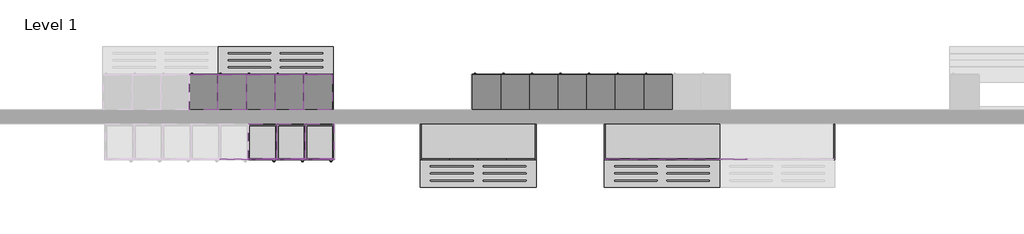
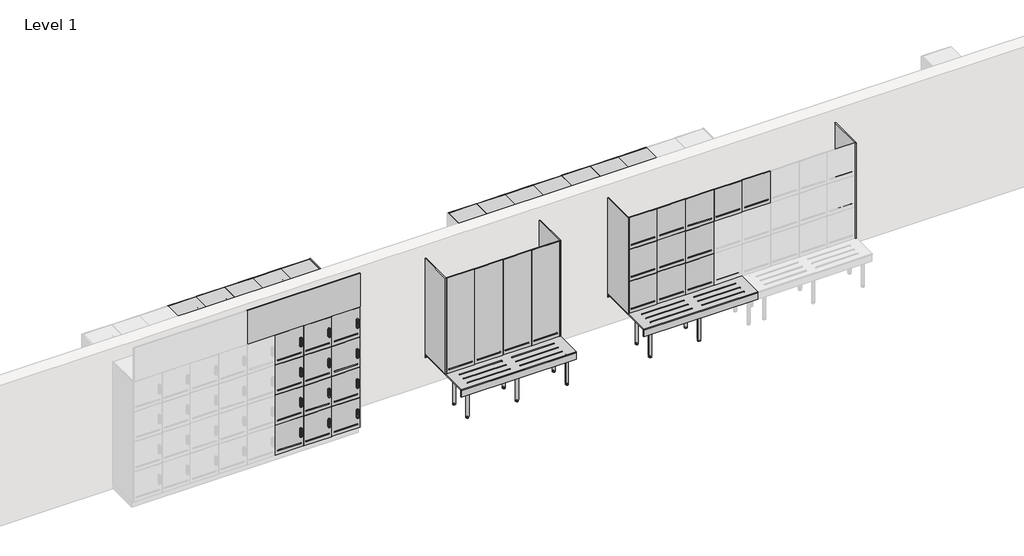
# One storey, part 2 of 3: 127 furniture elements.
"""IFC4 building model written with IfcOpenShell, lengths in millimetres."""

from ifc_helpers import new_model, si_unit, origin, place, context, project, spatial, transform, mapped, element, save
from components import furniture_7293fc8f, furniture_05545089, furniture_e4ac2a61, standard_2dcb62da, standard_f5ae554c, standard_45df0485, standard_ef5d929b, standard_f5e0fdab, standard_98e0e482, standard_e2bbb5fc, standard_e0f8491c, standard_74556009, standard_06cb4884, standard_31d623df, standard_40445af7, standard_a614ba5f, standard_bf09c246, standard_83458254, standard_7a0b6f89, standard_c490a989

model = new_model("IFC4")

# Units and contexts
model_context = context("Model", 3, world=origin())
ifc_project = project(units=[si_unit("LENGTHUNIT", "METRE", prefix="MILLI")], contexts=[model_context])

# Site, building, storey
site = spatial("IfcSite", under=ifc_project)
building = spatial("IfcBuilding", under=site)
storey = spatial("IfcBuildingStorey", under=building, Name="Level 1", Elevation=0.0)

# Furniture
placement = place(None, origin())
furniture_shape = furniture_7293fc8f(model_context)
element("IfcFurniture", 1, ObjectType="Lockers-Bay-Duracube-Duraloc : LBM-1900h x 500d x 400w with 470h Bench", at=placement, inside=storey, context=model_context, shape_type="MappedRepresentation", body=[
    mapped(furniture_shape, transform((-3635.1575415, 2567.7422336, 0.0), x_axis=(1.0, 0.0, 0.0), y_axis=(0.0, 1.0, 0.0), z_axis=(0.0, 0.0, 1.0))),
])
furniture_2_shape = furniture_05545089(model_context)
element("IfcFurniture", 2, ObjectType="Lockers-Bay-Duracube-Duraloc : LBM-1900h x 500d x 400w with 470h Bench", at=placement, inside=storey, context=model_context, shape_type="MappedRepresentation", body=[
    mapped(furniture_2_shape, transform((-1055.1575415, 2567.7422336, 0.0), x_axis=(1.0, 0.0, 0.0), y_axis=(0.0, 1.0, 0.0), z_axis=(0.0, 0.0, 1.0))),
])
furniture_3_shape = furniture_e4ac2a61(model_context)
element("IfcFurniture", 3, ObjectType="Lockers-Bay-Duracube-Duraloc : LWM-1900h x 500d x 400w @ 470h Wall", at=placement, inside=storey, context=model_context, shape_type="MappedRepresentation", body=[
    mapped(furniture_3_shape, transform((-4855.1575415, 3267.7422336, 0.0), x_axis=(-1.0, 0.0, 0.0), y_axis=(0.0, -1.0, 0.0), z_axis=(0.0, 0.0, 1.0))),
])
standard_shape = standard_2dcb62da(model_context)
element("IfcFurniture", 4, ObjectType="X_Bench-Foot-Duracube-Wall Assembly : Standard", at=placement, inside=storey, context=model_context, shape_type="MappedRepresentation", body=[
    mapped(standard_shape, transform((-3566.357868, 2317.7422336, 0.0), x_axis=(1.0, 0.0, 0.0), y_axis=(0.0, 1.0, 0.0), z_axis=(0.0, 0.0, 1.0))),
])
element("IfcFurniture", 5, ObjectType="X_Bench-Foot-Duracube-Wall Assembly : Standard", at=placement, inside=storey, context=model_context, shape_type="MappedRepresentation", body=[
    mapped(standard_shape, transform((-2866.857868, 2317.7422336, 0.0), x_axis=(1.0, 0.0, 0.0), y_axis=(0.0, 1.0, 0.0), z_axis=(0.0, 0.0, 1.0))),
])
element("IfcFurniture", 6, ObjectType="X_Bench-Foot-Duracube-Wall Assembly : Standard", at=placement, inside=storey, context=model_context, shape_type="MappedRepresentation", body=[
    mapped(standard_shape, transform((-986.357868, 2317.7422336, 0.0), x_axis=(1.0, 0.0, 0.0), y_axis=(0.0, 1.0, 0.0), z_axis=(0.0, 0.0, 1.0))),
])
element("IfcFurniture", 7, ObjectType="X_Bench-Foot-Duracube-Wall Assembly : Standard", at=placement, inside=storey, context=model_context, shape_type="MappedRepresentation", body=[
    mapped(standard_shape, transform((-293.357868, 2317.7422336, 0.0), x_axis=(1.0, 0.0, 0.0), y_axis=(0.0, 1.0, 0.0), z_axis=(0.0, 0.0, 1.0))),
])
element("IfcFurniture", 8, ObjectType="X_Bench-Foot-Duracube-Wall Assembly : Standard", at=placement, inside=storey, context=model_context, shape_type="MappedRepresentation", body=[
    mapped(standard_shape, transform((-4923.9572151, 3517.7422336, 0.0), x_axis=(-1.0, 0.0, 0.0), y_axis=(0.0, -1.0, 0.0), z_axis=(0.0, 0.0, 1.0))),
])
element("IfcFurniture", 9, ObjectType="X_Bench-Foot-Duracube-Wall Assembly : Standard", at=placement, inside=storey, context=model_context, shape_type="MappedRepresentation", body=[
    mapped(standard_shape, transform((-5616.9572151, 3517.7422336, 0.0), x_axis=(-1.0, 0.0, 0.0), y_axis=(0.0, -1.0, 0.0), z_axis=(0.0, 0.0, 1.0))),
])
element("IfcFurniture", 10, ObjectType="X_Bench-Foot-Duracube-Wall Assembly : Standard", at=placement, inside=storey, context=model_context, shape_type="MappedRepresentation", body=[
    mapped(standard_shape, transform((-6536.9572151, 3517.7422336, 0.0), x_axis=(-1.0, 0.0, 0.0), y_axis=(0.0, -1.0, 0.0), z_axis=(0.0, 0.0, 1.0))),
])
standard_2_shape = standard_f5ae554c(model_context)
element("IfcFurniture", 11, ObjectType="X_Bench-Foot-Duracube-Wall Assembly : Standard", at=placement, inside=storey, context=model_context, shape_type="MappedRepresentation", body=[
    mapped(standard_2_shape, transform((-2077.9572151, 2317.7422336, 0.0), x_axis=(-1.0, 0.0, 0.0), y_axis=(0.0, -1.0, 0.0), z_axis=(0.0, 0.0, 1.0))),
])
element("IfcFurniture", 12, ObjectType="X_Bench-Foot-Duracube-Wall Assembly : Standard", at=placement, inside=storey, context=model_context, shape_type="MappedRepresentation", body=[
    mapped(standard_2_shape, transform((-6399.357868, 3517.7422336, 0.0), x_axis=(1.0, 0.0, 0.0), y_axis=(0.0, 1.0, 0.0), z_axis=(0.0, 0.0, 1.0))),
])
standard_3_shape = standard_45df0485(model_context)
element("IfcFurniture", 13, ObjectType="X_Vanity-Angle-Duracube-Bench Support : Standard", at=placement, inside=storey, context=model_context, shape_type="MappedRepresentation", body=[
    mapped(standard_3_shape, transform((-293.357868, 2817.7422336, 417.0), x_axis=(1.0, 0.0, 0.0), y_axis=(0.0, 1.0, 0.0), z_axis=(0.0, 0.0, 1.0))),
])
element("IfcFurniture", 14, ObjectType="X_Vanity-Angle-Duracube-Bench Support : Standard", at=placement, inside=storey, context=model_context, shape_type="MappedRepresentation", body=[
    mapped(standard_3_shape, transform((-5616.9572151, 3017.7422336, 417.0), x_axis=(-1.0, 0.0, 0.0), y_axis=(0.0, -1.0, 0.0), z_axis=(0.0, 0.0, 1.0))),
])
standard_4_shape = standard_ef5d929b(model_context)
element("IfcFurniture", 15, ObjectType="X_Vanity-Angle-Duracube-Bench Support : Standard", at=placement, inside=storey, context=model_context, shape_type="MappedRepresentation", body=[
    mapped(standard_4_shape, transform((-2866.857868, 2817.7422336, 417.0), x_axis=(1.0, 0.0, 0.0), y_axis=(0.0, 1.0, 0.0), z_axis=(0.0, 0.0, 1.0))),
])
standard_5_shape = standard_f5e0fdab(model_context)
element("IfcFurniture", 16, ObjectType="X_Bench-Wall-Duracube-Locker : Standard", at=placement, inside=storey, context=model_context, shape_type="MappedRepresentation", body=[
    mapped(standard_5_shape, transform((-2866.857868, 2725.2422336, 0.0), x_axis=(1.0, 0.0, 0.0), y_axis=(0.0, 1.0, 0.0), z_axis=(0.0, 0.0, 1.0))),
])
standard_6_shape = standard_98e0e482(model_context)
element("IfcFurniture", 17, ObjectType="X_Bench-Wall-Duracube-Locker : Standard", at=placement, inside=storey, context=model_context, shape_type="MappedRepresentation", body=[
    mapped(standard_6_shape, transform((-293.357868, 2725.2422336, 0.0), x_axis=(1.0, 0.0, 0.0), y_axis=(0.0, 1.0, 0.0), z_axis=(0.0, 0.0, 1.0))),
])
element("IfcFurniture", 18, ObjectType="X_Bench-Wall-Duracube-Locker : Standard", at=placement, inside=storey, context=model_context, shape_type="MappedRepresentation", body=[
    mapped(standard_6_shape, transform((-5616.9572151, 3110.2422336, 0.0), x_axis=(-1.0, 0.0, 0.0), y_axis=(0.0, -1.0, 0.0), z_axis=(0.0, 0.0, 1.0))),
])
standard_7_shape = standard_e2bbb5fc(model_context)
element("IfcFurniture", 19, ObjectType="X_Locker-Duracube-Bay : Standard", at=placement, inside=storey, context=model_context, shape_type="MappedRepresentation", body=[
    mapped(standard_7_shape, transform((-5086.857868, 2817.7422336, 1450.0), x_axis=(1.0, 0.0, 0.0), y_axis=(0.0, 1.0, 0.0), z_axis=(0.0, 0.0, 1.0))),
])
element("IfcFurniture", 20, ObjectType="X_Locker-Duracube-Bay : Standard", at=placement, inside=storey, context=model_context, shape_type="MappedRepresentation", body=[
    mapped(standard_7_shape, transform((-5486.857868, 2817.7422336, 1450.0), x_axis=(1.0, 0.0, 0.0), y_axis=(0.0, 1.0, 0.0), z_axis=(0.0, 0.0, 1.0))),
])
element("IfcFurniture", 21, ObjectType="X_Locker-Duracube-Bay : Standard", at=placement, inside=storey, context=model_context, shape_type="MappedRepresentation", body=[
    mapped(standard_7_shape, transform((-5886.857868, 2817.7422336, 1450.0), x_axis=(1.0, 0.0, 0.0), y_axis=(0.0, 1.0, 0.0), z_axis=(0.0, 0.0, 1.0))),
])
standard_8_shape = standard_e0f8491c(model_context)
element("IfcFurniture", 22, ObjectType="X_Locker-Duracube-Door : Standard", at=placement, inside=storey, context=model_context, shape_type="MappedRepresentation", body=[
    mapped(standard_8_shape, transform((-5086.857868, 2330.7422336, 1450.0), x_axis=(1.0, 0.0, 0.0), y_axis=(0.0, 1.0, 0.0), z_axis=(0.0, 0.0, 1.0))),
])
element("IfcFurniture", 23, ObjectType="X_Locker-Duracube-Door : Standard", at=placement, inside=storey, context=model_context, shape_type="MappedRepresentation", body=[
    mapped(standard_8_shape, transform((-5486.857868, 2330.7422336, 1450.0), x_axis=(1.0, 0.0, 0.0), y_axis=(0.0, 1.0, 0.0), z_axis=(0.0, 0.0, 1.0))),
])
element("IfcFurniture", 24, ObjectType="X_Locker-Duracube-Door : Standard", at=placement, inside=storey, context=model_context, shape_type="MappedRepresentation", body=[
    mapped(standard_8_shape, transform((-5886.857868, 2330.7422336, 1450.0), x_axis=(1.0, 0.0, 0.0), y_axis=(0.0, 1.0, 0.0), z_axis=(0.0, 0.0, 1.0))),
])
element("IfcFurniture", 25, ObjectType="X_Locker-Duracube-Bay : Standard", at=placement, inside=storey, context=model_context, shape_type="MappedRepresentation", body=[
    mapped(standard_7_shape, transform((-5086.857868, 2817.7422336, 1000.0), x_axis=(1.0, 0.0, 0.0), y_axis=(0.0, 1.0, 0.0), z_axis=(0.0, 0.0, 1.0))),
])
element("IfcFurniture", 26, ObjectType="X_Locker-Duracube-Bay : Standard", at=placement, inside=storey, context=model_context, shape_type="MappedRepresentation", body=[
    mapped(standard_7_shape, transform((-5486.857868, 2817.7422336, 1000.0), x_axis=(1.0, 0.0, 0.0), y_axis=(0.0, 1.0, 0.0), z_axis=(0.0, 0.0, 1.0))),
])
element("IfcFurniture", 27, ObjectType="X_Locker-Duracube-Bay : Standard", at=placement, inside=storey, context=model_context, shape_type="MappedRepresentation", body=[
    mapped(standard_7_shape, transform((-5886.857868, 2817.7422336, 1000.0), x_axis=(1.0, 0.0, 0.0), y_axis=(0.0, 1.0, 0.0), z_axis=(0.0, 0.0, 1.0))),
])
element("IfcFurniture", 28, ObjectType="X_Locker-Duracube-Bay : Standard", at=placement, inside=storey, context=model_context, shape_type="MappedRepresentation", body=[
    mapped(standard_7_shape, transform((-5086.857868, 2817.7422336, 100.0), x_axis=(1.0, 0.0, 0.0), y_axis=(0.0, 1.0, 0.0), z_axis=(0.0, 0.0, 1.0))),
])
element("IfcFurniture", 29, ObjectType="X_Locker-Duracube-Bay : Standard", at=placement, inside=storey, context=model_context, shape_type="MappedRepresentation", body=[
    mapped(standard_7_shape, transform((-5486.857868, 2817.7422336, 100.0), x_axis=(1.0, 0.0, 0.0), y_axis=(0.0, 1.0, 0.0), z_axis=(0.0, 0.0, 1.0))),
])
element("IfcFurniture", 30, ObjectType="X_Locker-Duracube-Bay : Standard", at=placement, inside=storey, context=model_context, shape_type="MappedRepresentation", body=[
    mapped(standard_7_shape, transform((-5886.857868, 2817.7422336, 100.0), x_axis=(1.0, 0.0, 0.0), y_axis=(0.0, 1.0, 0.0), z_axis=(0.0, 0.0, 1.0))),
])
element("IfcFurniture", 31, ObjectType="X_Locker-Duracube-Door : Standard", at=placement, inside=storey, context=model_context, shape_type="MappedRepresentation", body=[
    mapped(standard_8_shape, transform((-5086.857868, 2330.7422336, 1000.0), x_axis=(1.0, 0.0, 0.0), y_axis=(0.0, 1.0, 0.0), z_axis=(0.0, 0.0, 1.0))),
])
element("IfcFurniture", 32, ObjectType="X_Locker-Duracube-Door : Standard", at=placement, inside=storey, context=model_context, shape_type="MappedRepresentation", body=[
    mapped(standard_8_shape, transform((-5486.857868, 2330.7422336, 1000.0), x_axis=(1.0, 0.0, 0.0), y_axis=(0.0, 1.0, 0.0), z_axis=(0.0, 0.0, 1.0))),
])
element("IfcFurniture", 33, ObjectType="X_Locker-Duracube-Door : Standard", at=placement, inside=storey, context=model_context, shape_type="MappedRepresentation", body=[
    mapped(standard_8_shape, transform((-5886.857868, 2330.7422336, 1000.0), x_axis=(1.0, 0.0, 0.0), y_axis=(0.0, 1.0, 0.0), z_axis=(0.0, 0.0, 1.0))),
])
element("IfcFurniture", 34, ObjectType="X_Locker-Duracube-Door : Standard", at=placement, inside=storey, context=model_context, shape_type="MappedRepresentation", body=[
    mapped(standard_8_shape, transform((-5086.857868, 2330.7422336, 100.0), x_axis=(1.0, 0.0, 0.0), y_axis=(0.0, 1.0, 0.0), z_axis=(0.0, 0.0, 1.0))),
])
element("IfcFurniture", 35, ObjectType="X_Locker-Duracube-Door : Standard", at=placement, inside=storey, context=model_context, shape_type="MappedRepresentation", body=[
    mapped(standard_8_shape, transform((-5486.857868, 2330.7422336, 100.0), x_axis=(1.0, 0.0, 0.0), y_axis=(0.0, 1.0, 0.0), z_axis=(0.0, 0.0, 1.0))),
])
element("IfcFurniture", 36, ObjectType="X_Locker-Duracube-Door : Standard", at=placement, inside=storey, context=model_context, shape_type="MappedRepresentation", body=[
    mapped(standard_8_shape, transform((-5886.857868, 2330.7422336, 100.0), x_axis=(1.0, 0.0, 0.0), y_axis=(0.0, 1.0, 0.0), z_axis=(0.0, 0.0, 1.0))),
])
element("IfcFurniture", 37, ObjectType="X_Locker-Duracube-Bay : Standard", at=placement, inside=storey, context=model_context, shape_type="MappedRepresentation", body=[
    mapped(standard_7_shape, transform((-5086.857868, 2817.7422336, 550.0), x_axis=(1.0, 0.0, 0.0), y_axis=(0.0, 1.0, 0.0), z_axis=(0.0, 0.0, 1.0))),
])
element("IfcFurniture", 38, ObjectType="X_Locker-Duracube-Bay : Standard", at=placement, inside=storey, context=model_context, shape_type="MappedRepresentation", body=[
    mapped(standard_7_shape, transform((-5486.857868, 2817.7422336, 550.0), x_axis=(1.0, 0.0, 0.0), y_axis=(0.0, 1.0, 0.0), z_axis=(0.0, 0.0, 1.0))),
])
element("IfcFurniture", 39, ObjectType="X_Locker-Duracube-Bay : Standard", at=placement, inside=storey, context=model_context, shape_type="MappedRepresentation", body=[
    mapped(standard_7_shape, transform((-5886.857868, 2817.7422336, 550.0), x_axis=(1.0, 0.0, 0.0), y_axis=(0.0, 1.0, 0.0), z_axis=(0.0, 0.0, 1.0))),
])
element("IfcFurniture", 40, ObjectType="X_Locker-Duracube-Door : Standard", at=placement, inside=storey, context=model_context, shape_type="MappedRepresentation", body=[
    mapped(standard_8_shape, transform((-5086.857868, 2330.7422336, 550.0), x_axis=(1.0, 0.0, 0.0), y_axis=(0.0, 1.0, 0.0), z_axis=(0.0, 0.0, 1.0))),
])
element("IfcFurniture", 41, ObjectType="X_Locker-Duracube-Door : Standard", at=placement, inside=storey, context=model_context, shape_type="MappedRepresentation", body=[
    mapped(standard_8_shape, transform((-5486.857868, 2330.7422336, 550.0), x_axis=(1.0, 0.0, 0.0), y_axis=(0.0, 1.0, 0.0), z_axis=(0.0, 0.0, 1.0))),
])
element("IfcFurniture", 42, ObjectType="X_Locker-Duracube-Door : Standard", at=placement, inside=storey, context=model_context, shape_type="MappedRepresentation", body=[
    mapped(standard_8_shape, transform((-5886.857868, 2330.7422336, 550.0), x_axis=(1.0, 0.0, 0.0), y_axis=(0.0, 1.0, 0.0), z_axis=(0.0, 0.0, 1.0))),
])
standard_9_shape = standard_74556009(model_context)
element("IfcFurniture", 43, ObjectType="X_Locker-Duracube-Door : Standard", at=placement, inside=storey, context=model_context, shape_type="MappedRepresentation", body=[
    mapped(standard_9_shape, transform((-2266.857868, 2330.7422336, 470.0), x_axis=(1.0, 0.0, 0.0), y_axis=(0.0, 1.0, 0.0), z_axis=(0.0, 0.0, 1.0))),
])
element("IfcFurniture", 44, ObjectType="X_Locker-Duracube-Door : Standard", at=placement, inside=storey, context=model_context, shape_type="MappedRepresentation", body=[
    mapped(standard_9_shape, transform((-2666.857868, 2330.7422336, 470.0), x_axis=(1.0, 0.0, 0.0), y_axis=(0.0, 1.0, 0.0), z_axis=(0.0, 0.0, 1.0))),
])
element("IfcFurniture", 45, ObjectType="X_Locker-Duracube-Door : Standard", at=placement, inside=storey, context=model_context, shape_type="MappedRepresentation", body=[
    mapped(standard_9_shape, transform((-3066.857868, 2330.7422336, 470.0), x_axis=(1.0, 0.0, 0.0), y_axis=(0.0, 1.0, 0.0), z_axis=(0.0, 0.0, 1.0))),
])
element("IfcFurniture", 46, ObjectType="X_Locker-Duracube-Door : Standard", at=placement, inside=storey, context=model_context, shape_type="MappedRepresentation", body=[
    mapped(standard_9_shape, transform((-3466.857868, 2330.7422336, 470.0), x_axis=(1.0, 0.0, 0.0), y_axis=(0.0, 1.0, 0.0), z_axis=(0.0, 0.0, 1.0))),
])
standard_10_shape = standard_06cb4884(model_context)
element("IfcFurniture", 47, ObjectType="X_Locker-Duracube-Door : Standard", at=placement, inside=storey, context=model_context, shape_type="MappedRepresentation", body=[
    mapped(standard_10_shape, transform((713.142132, 2330.7422336, 1423.3333333), x_axis=(1.0, 0.0, 0.0), y_axis=(0.0, 1.0, 0.0), z_axis=(0.0, 0.0, 1.0))),
])
element("IfcFurniture", 48, ObjectType="X_Locker-Duracube-Door : Standard", at=placement, inside=storey, context=model_context, shape_type="MappedRepresentation", body=[
    mapped(standard_10_shape, transform((313.142132, 2330.7422336, 1423.3333333), x_axis=(1.0, 0.0, 0.0), y_axis=(0.0, 1.0, 0.0), z_axis=(0.0, 0.0, 1.0))),
])
element("IfcFurniture", 49, ObjectType="X_Locker-Duracube-Door : Standard", at=placement, inside=storey, context=model_context, shape_type="MappedRepresentation", body=[
    mapped(standard_10_shape, transform((-86.857868, 2330.7422336, 1423.3333333), x_axis=(1.0, 0.0, 0.0), y_axis=(0.0, 1.0, 0.0), z_axis=(0.0, 0.0, 1.0))),
])
element("IfcFurniture", 50, ObjectType="X_Locker-Duracube-Door : Standard", at=placement, inside=storey, context=model_context, shape_type="MappedRepresentation", body=[
    mapped(standard_10_shape, transform((-86.857868, 2330.7422336, 946.6666667), x_axis=(1.0, 0.0, 0.0), y_axis=(0.0, 1.0, 0.0), z_axis=(0.0, 0.0, 1.0))),
])
element("IfcFurniture", 51, ObjectType="X_Locker-Duracube-Door : Standard", at=placement, inside=storey, context=model_context, shape_type="MappedRepresentation", body=[
    mapped(standard_10_shape, transform((-86.857868, 2330.7422336, 470.0), x_axis=(1.0, 0.0, 0.0), y_axis=(0.0, 1.0, 0.0), z_axis=(0.0, 0.0, 1.0))),
])
element("IfcFurniture", 52, ObjectType="X_Locker-Duracube-Door : Standard", at=placement, inside=storey, context=model_context, shape_type="MappedRepresentation", body=[
    mapped(standard_10_shape, transform((-486.857868, 2330.7422336, 1423.3333333), x_axis=(1.0, 0.0, 0.0), y_axis=(0.0, 1.0, 0.0), z_axis=(0.0, 0.0, 1.0))),
])
element("IfcFurniture", 53, ObjectType="X_Locker-Duracube-Door : Standard", at=placement, inside=storey, context=model_context, shape_type="MappedRepresentation", body=[
    mapped(standard_10_shape, transform((-486.857868, 2330.7422336, 946.6666667), x_axis=(1.0, 0.0, 0.0), y_axis=(0.0, 1.0, 0.0), z_axis=(0.0, 0.0, 1.0))),
])
element("IfcFurniture", 54, ObjectType="X_Locker-Duracube-Door : Standard", at=placement, inside=storey, context=model_context, shape_type="MappedRepresentation", body=[
    mapped(standard_10_shape, transform((-486.857868, 2330.7422336, 470.0), x_axis=(1.0, 0.0, 0.0), y_axis=(0.0, 1.0, 0.0), z_axis=(0.0, 0.0, 1.0))),
])
element("IfcFurniture", 55, ObjectType="X_Locker-Duracube-Door : Standard", at=placement, inside=storey, context=model_context, shape_type="MappedRepresentation", body=[
    mapped(standard_10_shape, transform((-886.857868, 2330.7422336, 1423.3333333), x_axis=(1.0, 0.0, 0.0), y_axis=(0.0, 1.0, 0.0), z_axis=(0.0, 0.0, 1.0))),
])
element("IfcFurniture", 56, ObjectType="X_Locker-Duracube-Door : Standard", at=placement, inside=storey, context=model_context, shape_type="MappedRepresentation", body=[
    mapped(standard_10_shape, transform((-886.857868, 2330.7422336, 946.6666667), x_axis=(1.0, 0.0, 0.0), y_axis=(0.0, 1.0, 0.0), z_axis=(0.0, 0.0, 1.0))),
])
element("IfcFurniture", 57, ObjectType="X_Locker-Duracube-Door : Standard", at=placement, inside=storey, context=model_context, shape_type="MappedRepresentation", body=[
    mapped(standard_10_shape, transform((-886.857868, 2330.7422336, 470.0), x_axis=(1.0, 0.0, 0.0), y_axis=(0.0, 1.0, 0.0), z_axis=(0.0, 0.0, 1.0))),
])
standard_11_shape = standard_31d623df(model_context)
element("IfcFurniture", 58, ObjectType="X_Locker-Duracube-Door : Standard", at=placement, inside=storey, context=model_context, shape_type="MappedRepresentation", body=[
    mapped(standard_11_shape, transform((-2661.442015, 3504.7422336, 1185.0), x_axis=(-1.0, 0.0, 0.0), y_axis=(0.0, -1.0, 0.0), z_axis=(0.0, 0.0, 1.0))),
])
element("IfcFurniture", 59, ObjectType="X_Locker-Duracube-Door : Standard", at=placement, inside=storey, context=model_context, shape_type="MappedRepresentation", body=[
    mapped(standard_11_shape, transform((-2261.442015, 3504.7422336, 1185.0), x_axis=(-1.0, 0.0, 0.0), y_axis=(0.0, -1.0, 0.0), z_axis=(0.0, 0.0, 1.0))),
])
element("IfcFurniture", 60, ObjectType="X_Locker-Duracube-Door : Standard", at=placement, inside=storey, context=model_context, shape_type="MappedRepresentation", body=[
    mapped(standard_11_shape, transform((-1861.442015, 3504.7422336, 1185.0), x_axis=(-1.0, 0.0, 0.0), y_axis=(0.0, -1.0, 0.0), z_axis=(0.0, 0.0, 1.0))),
])
element("IfcFurniture", 61, ObjectType="X_Locker-Duracube-Door : Standard", at=placement, inside=storey, context=model_context, shape_type="MappedRepresentation", body=[
    mapped(standard_11_shape, transform((-1461.442015, 3504.7422336, 1185.0), x_axis=(-1.0, 0.0, 0.0), y_axis=(0.0, -1.0, 0.0), z_axis=(0.0, 0.0, 1.0))),
])
element("IfcFurniture", 62, ObjectType="X_Locker-Duracube-Door : Standard", at=placement, inside=storey, context=model_context, shape_type="MappedRepresentation", body=[
    mapped(standard_11_shape, transform((-1061.442015, 3504.7422336, 1185.0), x_axis=(-1.0, 0.0, 0.0), y_axis=(0.0, -1.0, 0.0), z_axis=(0.0, 0.0, 1.0))),
])
element("IfcFurniture", 63, ObjectType="X_Locker-Duracube-Door : Standard", at=placement, inside=storey, context=model_context, shape_type="MappedRepresentation", body=[
    mapped(standard_11_shape, transform((-661.442015, 3504.7422336, 1185.0), x_axis=(-1.0, 0.0, 0.0), y_axis=(0.0, -1.0, 0.0), z_axis=(0.0, 0.0, 1.0))),
])
element("IfcFurniture", 64, ObjectType="X_Locker-Duracube-Door : Standard", at=placement, inside=storey, context=model_context, shape_type="MappedRepresentation", body=[
    mapped(standard_11_shape, transform((-261.442015, 3504.7422336, 1185.0), x_axis=(-1.0, 0.0, 0.0), y_axis=(0.0, -1.0, 0.0), z_axis=(0.0, 0.0, 1.0))),
])
element("IfcFurniture", 65, ObjectType="X_Locker-Duracube-Door : Standard", at=placement, inside=storey, context=model_context, shape_type="MappedRepresentation", body=[
    mapped(standard_11_shape, transform((-2661.442015, 3504.7422336, 470.0), x_axis=(-1.0, 0.0, 0.0), y_axis=(0.0, -1.0, 0.0), z_axis=(0.0, 0.0, 1.0))),
])
element("IfcFurniture", 66, ObjectType="X_Locker-Duracube-Door : Standard", at=placement, inside=storey, context=model_context, shape_type="MappedRepresentation", body=[
    mapped(standard_11_shape, transform((-2261.442015, 3504.7422336, 470.0), x_axis=(-1.0, 0.0, 0.0), y_axis=(0.0, -1.0, 0.0), z_axis=(0.0, 0.0, 1.0))),
])
element("IfcFurniture", 67, ObjectType="X_Locker-Duracube-Door : Standard", at=placement, inside=storey, context=model_context, shape_type="MappedRepresentation", body=[
    mapped(standard_11_shape, transform((-1861.442015, 3504.7422336, 470.0), x_axis=(-1.0, 0.0, 0.0), y_axis=(0.0, -1.0, 0.0), z_axis=(0.0, 0.0, 1.0))),
])
element("IfcFurniture", 68, ObjectType="X_Locker-Duracube-Door : Standard", at=placement, inside=storey, context=model_context, shape_type="MappedRepresentation", body=[
    mapped(standard_11_shape, transform((-1461.442015, 3504.7422336, 470.0), x_axis=(-1.0, 0.0, 0.0), y_axis=(0.0, -1.0, 0.0), z_axis=(0.0, 0.0, 1.0))),
])
element("IfcFurniture", 69, ObjectType="X_Locker-Duracube-Door : Standard", at=placement, inside=storey, context=model_context, shape_type="MappedRepresentation", body=[
    mapped(standard_11_shape, transform((-1061.442015, 3504.7422336, 470.0), x_axis=(-1.0, 0.0, 0.0), y_axis=(0.0, -1.0, 0.0), z_axis=(0.0, 0.0, 1.0))),
])
element("IfcFurniture", 70, ObjectType="X_Locker-Duracube-Door : Standard", at=placement, inside=storey, context=model_context, shape_type="MappedRepresentation", body=[
    mapped(standard_11_shape, transform((-661.442015, 3504.7422336, 470.0), x_axis=(-1.0, 0.0, 0.0), y_axis=(0.0, -1.0, 0.0), z_axis=(0.0, 0.0, 1.0))),
])
element("IfcFurniture", 71, ObjectType="X_Locker-Duracube-Door : Standard", at=placement, inside=storey, context=model_context, shape_type="MappedRepresentation", body=[
    mapped(standard_11_shape, transform((-261.442015, 3504.7422336, 470.0), x_axis=(-1.0, 0.0, 0.0), y_axis=(0.0, -1.0, 0.0), z_axis=(0.0, 0.0, 1.0))),
])
standard_12_shape = standard_40445af7(model_context)
element("IfcFurniture", 72, ObjectType="X_Locker-Duracube-Bay : Standard", at=placement, inside=storey, context=model_context, shape_type="MappedRepresentation", body=[
    mapped(standard_12_shape, transform((-5023.4572151, 3017.7422336, 470.0), x_axis=(-1.0, 0.0, 0.0), y_axis=(0.0, -1.0, 0.0), z_axis=(0.0, 0.0, 1.0))),
])
element("IfcFurniture", 73, ObjectType="X_Locker-Duracube-Bay : Standard", at=placement, inside=storey, context=model_context, shape_type="MappedRepresentation", body=[
    mapped(standard_12_shape, transform((-5023.4572151, 3017.7422336, 1185.0), x_axis=(-1.0, 0.0, 0.0), y_axis=(0.0, -1.0, 0.0), z_axis=(0.0, 0.0, 1.0))),
])
element("IfcFurniture", 74, ObjectType="X_Locker-Duracube-Bay : Standard", at=placement, inside=storey, context=model_context, shape_type="MappedRepresentation", body=[
    mapped(standard_12_shape, transform((-5423.4572151, 3017.7422336, 827.5), x_axis=(-1.0, 0.0, 0.0), y_axis=(0.0, -1.0, 0.0), z_axis=(0.0, 0.0, 1.0))),
])
element("IfcFurniture", 75, ObjectType="X_Locker-Duracube-Bay : Standard", at=placement, inside=storey, context=model_context, shape_type="MappedRepresentation", body=[
    mapped(standard_12_shape, transform((-5423.4572151, 3017.7422336, 1542.5), x_axis=(-1.0, 0.0, 0.0), y_axis=(0.0, -1.0, 0.0), z_axis=(0.0, 0.0, 1.0))),
])
element("IfcFurniture", 76, ObjectType="X_Locker-Duracube-Bay : Standard", at=placement, inside=storey, context=model_context, shape_type="MappedRepresentation", body=[
    mapped(standard_12_shape, transform((-5823.4572151, 3017.7422336, 470.0), x_axis=(-1.0, 0.0, 0.0), y_axis=(0.0, -1.0, 0.0), z_axis=(0.0, 0.0, 1.0))),
])
element("IfcFurniture", 77, ObjectType="X_Locker-Duracube-Bay : Standard", at=placement, inside=storey, context=model_context, shape_type="MappedRepresentation", body=[
    mapped(standard_12_shape, transform((-5823.4572151, 3017.7422336, 1185.0), x_axis=(-1.0, 0.0, 0.0), y_axis=(0.0, -1.0, 0.0), z_axis=(0.0, 0.0, 1.0))),
])
element("IfcFurniture", 78, ObjectType="X_Locker-Duracube-Bay : Standard", at=placement, inside=storey, context=model_context, shape_type="MappedRepresentation", body=[
    mapped(standard_12_shape, transform((-6223.4572151, 3017.7422336, 827.5), x_axis=(-1.0, 0.0, 0.0), y_axis=(0.0, -1.0, 0.0), z_axis=(0.0, 0.0, 1.0))),
])
element("IfcFurniture", 79, ObjectType="X_Locker-Duracube-Bay : Standard", at=placement, inside=storey, context=model_context, shape_type="MappedRepresentation", body=[
    mapped(standard_12_shape, transform((-6223.4572151, 3017.7422336, 1542.5), x_axis=(-1.0, 0.0, 0.0), y_axis=(0.0, -1.0, 0.0), z_axis=(0.0, 0.0, 1.0))),
])
element("IfcFurniture", 80, ObjectType="X_Locker-Duracube-Bay : Standard", at=placement, inside=storey, context=model_context, shape_type="MappedRepresentation", body=[
    mapped(standard_12_shape, transform((-6623.4572151, 3017.7422336, 470.0), x_axis=(-1.0, 0.0, 0.0), y_axis=(0.0, -1.0, 0.0), z_axis=(0.0, 0.0, 1.0))),
])
element("IfcFurniture", 81, ObjectType="X_Locker-Duracube-Bay : Standard", at=placement, inside=storey, context=model_context, shape_type="MappedRepresentation", body=[
    mapped(standard_12_shape, transform((-6623.4572151, 3017.7422336, 1185.0), x_axis=(-1.0, 0.0, 0.0), y_axis=(0.0, -1.0, 0.0), z_axis=(0.0, 0.0, 1.0))),
])
standard_13_shape = standard_a614ba5f(model_context)
element("IfcFurniture", 82, ObjectType="X_Locker-Duracube-Door : Standard", at=placement, inside=storey, context=model_context, shape_type="MappedRepresentation", body=[
    mapped(standard_13_shape, transform((-5023.4572151, 3504.7422336, 470.0), x_axis=(-1.0, 0.0, 0.0), y_axis=(0.0, -1.0, 0.0), z_axis=(0.0, 0.0, 1.0))),
])
element("IfcFurniture", 83, ObjectType="X_Locker-Duracube-Door : Standard", at=placement, inside=storey, context=model_context, shape_type="MappedRepresentation", body=[
    mapped(standard_13_shape, transform((-5023.4572151, 3504.7422336, 1185.0), x_axis=(-1.0, 0.0, 0.0), y_axis=(0.0, -1.0, 0.0), z_axis=(0.0, 0.0, 1.0))),
])
element("IfcFurniture", 84, ObjectType="X_Locker-Duracube-Door : Standard", at=placement, inside=storey, context=model_context, shape_type="MappedRepresentation", body=[
    mapped(standard_13_shape, transform((-5423.4572151, 3504.7422336, 827.5), x_axis=(-1.0, 0.0, 0.0), y_axis=(0.0, -1.0, 0.0), z_axis=(0.0, 0.0, 1.0))),
])
element("IfcFurniture", 85, ObjectType="X_Locker-Duracube-Door : Standard", at=placement, inside=storey, context=model_context, shape_type="MappedRepresentation", body=[
    mapped(standard_13_shape, transform((-5423.4572151, 3504.7422336, 1542.5), x_axis=(-1.0, 0.0, 0.0), y_axis=(0.0, -1.0, 0.0), z_axis=(0.0, 0.0, 1.0))),
])
element("IfcFurniture", 86, ObjectType="X_Locker-Duracube-Door : Standard", at=placement, inside=storey, context=model_context, shape_type="MappedRepresentation", body=[
    mapped(standard_13_shape, transform((-5823.4572151, 3504.7422336, 470.0), x_axis=(-1.0, 0.0, 0.0), y_axis=(0.0, -1.0, 0.0), z_axis=(0.0, 0.0, 1.0))),
])
element("IfcFurniture", 87, ObjectType="X_Locker-Duracube-Door : Standard", at=placement, inside=storey, context=model_context, shape_type="MappedRepresentation", body=[
    mapped(standard_13_shape, transform((-5823.4572151, 3504.7422336, 1185.0), x_axis=(-1.0, 0.0, 0.0), y_axis=(0.0, -1.0, 0.0), z_axis=(0.0, 0.0, 1.0))),
])
element("IfcFurniture", 88, ObjectType="X_Locker-Duracube-Door : Standard", at=placement, inside=storey, context=model_context, shape_type="MappedRepresentation", body=[
    mapped(standard_13_shape, transform((-6223.4572151, 3504.7422336, 827.5), x_axis=(-1.0, 0.0, 0.0), y_axis=(0.0, -1.0, 0.0), z_axis=(0.0, 0.0, 1.0))),
])
element("IfcFurniture", 89, ObjectType="X_Locker-Duracube-Door : Standard", at=placement, inside=storey, context=model_context, shape_type="MappedRepresentation", body=[
    mapped(standard_13_shape, transform((-6223.4572151, 3504.7422336, 1542.5), x_axis=(-1.0, 0.0, 0.0), y_axis=(0.0, -1.0, 0.0), z_axis=(0.0, 0.0, 1.0))),
])
element("IfcFurniture", 90, ObjectType="X_Locker-Duracube-Door : Standard", at=placement, inside=storey, context=model_context, shape_type="MappedRepresentation", body=[
    mapped(standard_13_shape, transform((-6623.4572151, 3504.7422336, 470.0), x_axis=(-1.0, 0.0, 0.0), y_axis=(0.0, -1.0, 0.0), z_axis=(0.0, 0.0, 1.0))),
])
element("IfcFurniture", 91, ObjectType="X_Locker-Duracube-Door : Standard", at=placement, inside=storey, context=model_context, shape_type="MappedRepresentation", body=[
    mapped(standard_13_shape, transform((-6623.4572151, 3504.7422336, 1185.0), x_axis=(-1.0, 0.0, 0.0), y_axis=(0.0, -1.0, 0.0), z_axis=(0.0, 0.0, 1.0))),
])
element("IfcFurniture", 92, ObjectType="X_Locker-Duracube-Bay : Standard", at=placement, inside=storey, context=model_context, shape_type="MappedRepresentation", body=[
    mapped(standard_12_shape, transform((-5023.4572151, 3017.7422336, 827.5), x_axis=(-1.0, 0.0, 0.0), y_axis=(0.0, -1.0, 0.0), z_axis=(0.0, 0.0, 1.0))),
])
element("IfcFurniture", 93, ObjectType="X_Locker-Duracube-Bay : Standard", at=placement, inside=storey, context=model_context, shape_type="MappedRepresentation", body=[
    mapped(standard_12_shape, transform((-5423.4572151, 3017.7422336, 1185.0), x_axis=(-1.0, 0.0, 0.0), y_axis=(0.0, -1.0, 0.0), z_axis=(0.0, 0.0, 1.0))),
])
element("IfcFurniture", 94, ObjectType="X_Locker-Duracube-Bay : Standard", at=placement, inside=storey, context=model_context, shape_type="MappedRepresentation", body=[
    mapped(standard_12_shape, transform((-5823.4572151, 3017.7422336, 827.5), x_axis=(-1.0, 0.0, 0.0), y_axis=(0.0, -1.0, 0.0), z_axis=(0.0, 0.0, 1.0))),
])
element("IfcFurniture", 95, ObjectType="X_Locker-Duracube-Bay : Standard", at=placement, inside=storey, context=model_context, shape_type="MappedRepresentation", body=[
    mapped(standard_12_shape, transform((-6623.4572151, 3017.7422336, 1542.5), x_axis=(-1.0, 0.0, 0.0), y_axis=(0.0, -1.0, 0.0), z_axis=(0.0, 0.0, 1.0))),
])
element("IfcFurniture", 96, ObjectType="X_Locker-Duracube-Door : Standard", at=placement, inside=storey, context=model_context, shape_type="MappedRepresentation", body=[
    mapped(standard_13_shape, transform((-5023.4572151, 3504.7422336, 827.5), x_axis=(-1.0, 0.0, 0.0), y_axis=(0.0, -1.0, 0.0), z_axis=(0.0, 0.0, 1.0))),
])
element("IfcFurniture", 97, ObjectType="X_Locker-Duracube-Door : Standard", at=placement, inside=storey, context=model_context, shape_type="MappedRepresentation", body=[
    mapped(standard_13_shape, transform((-5423.4572151, 3504.7422336, 1185.0), x_axis=(-1.0, 0.0, 0.0), y_axis=(0.0, -1.0, 0.0), z_axis=(0.0, 0.0, 1.0))),
])
element("IfcFurniture", 98, ObjectType="X_Locker-Duracube-Door : Standard", at=placement, inside=storey, context=model_context, shape_type="MappedRepresentation", body=[
    mapped(standard_13_shape, transform((-5823.4572151, 3504.7422336, 827.5), x_axis=(-1.0, 0.0, 0.0), y_axis=(0.0, -1.0, 0.0), z_axis=(0.0, 0.0, 1.0))),
])
element("IfcFurniture", 99, ObjectType="X_Locker-Duracube-Door : Standard", at=placement, inside=storey, context=model_context, shape_type="MappedRepresentation", body=[
    mapped(standard_13_shape, transform((-6223.4572151, 3504.7422336, 470.0), x_axis=(-1.0, 0.0, 0.0), y_axis=(0.0, -1.0, 0.0), z_axis=(0.0, 0.0, 1.0))),
])
element("IfcFurniture", 100, ObjectType="X_Locker-Duracube-Door : Standard", at=placement, inside=storey, context=model_context, shape_type="MappedRepresentation", body=[
    mapped(standard_13_shape, transform((-6623.4572151, 3504.7422336, 1542.5), x_axis=(-1.0, 0.0, 0.0), y_axis=(0.0, -1.0, 0.0), z_axis=(0.0, 0.0, 1.0))),
])
element("IfcFurniture", 101, ObjectType="X_Locker-Duracube-Bay : Standard", at=placement, inside=storey, context=model_context, shape_type="MappedRepresentation", body=[
    mapped(standard_12_shape, transform((-5023.4572151, 3017.7422336, 1542.5), x_axis=(-1.0, 0.0, 0.0), y_axis=(0.0, -1.0, 0.0), z_axis=(0.0, 0.0, 1.0))),
])
element("IfcFurniture", 102, ObjectType="X_Locker-Duracube-Bay : Standard", at=placement, inside=storey, context=model_context, shape_type="MappedRepresentation", body=[
    mapped(standard_12_shape, transform((-5423.4572151, 3017.7422336, 470.0), x_axis=(-1.0, 0.0, 0.0), y_axis=(0.0, -1.0, 0.0), z_axis=(0.0, 0.0, 1.0))),
])
element("IfcFurniture", 103, ObjectType="X_Locker-Duracube-Bay : Standard", at=placement, inside=storey, context=model_context, shape_type="MappedRepresentation", body=[
    mapped(standard_12_shape, transform((-5823.4572151, 3017.7422336, 1542.5), x_axis=(-1.0, 0.0, 0.0), y_axis=(0.0, -1.0, 0.0), z_axis=(0.0, 0.0, 1.0))),
])
element("IfcFurniture", 104, ObjectType="X_Locker-Duracube-Bay : Standard", at=placement, inside=storey, context=model_context, shape_type="MappedRepresentation", body=[
    mapped(standard_12_shape, transform((-6223.4572151, 3017.7422336, 1185.0), x_axis=(-1.0, 0.0, 0.0), y_axis=(0.0, -1.0, 0.0), z_axis=(0.0, 0.0, 1.0))),
])
element("IfcFurniture", 105, ObjectType="X_Locker-Duracube-Bay : Standard", at=placement, inside=storey, context=model_context, shape_type="MappedRepresentation", body=[
    mapped(standard_12_shape, transform((-6623.4572151, 3017.7422336, 827.5), x_axis=(-1.0, 0.0, 0.0), y_axis=(0.0, -1.0, 0.0), z_axis=(0.0, 0.0, 1.0))),
])
element("IfcFurniture", 106, ObjectType="X_Locker-Duracube-Door : Standard", at=placement, inside=storey, context=model_context, shape_type="MappedRepresentation", body=[
    mapped(standard_13_shape, transform((-5023.4572151, 3504.7422336, 1542.5), x_axis=(-1.0, 0.0, 0.0), y_axis=(0.0, -1.0, 0.0), z_axis=(0.0, 0.0, 1.0))),
])
element("IfcFurniture", 107, ObjectType="X_Locker-Duracube-Door : Standard", at=placement, inside=storey, context=model_context, shape_type="MappedRepresentation", body=[
    mapped(standard_13_shape, transform((-5423.4572151, 3504.7422336, 470.0), x_axis=(-1.0, 0.0, 0.0), y_axis=(0.0, -1.0, 0.0), z_axis=(0.0, 0.0, 1.0))),
])
element("IfcFurniture", 108, ObjectType="X_Locker-Duracube-Door : Standard", at=placement, inside=storey, context=model_context, shape_type="MappedRepresentation", body=[
    mapped(standard_13_shape, transform((-5823.4572151, 3504.7422336, 1542.5), x_axis=(-1.0, 0.0, 0.0), y_axis=(0.0, -1.0, 0.0), z_axis=(0.0, 0.0, 1.0))),
])
element("IfcFurniture", 109, ObjectType="X_Locker-Duracube-Door : Standard", at=placement, inside=storey, context=model_context, shape_type="MappedRepresentation", body=[
    mapped(standard_13_shape, transform((-6223.4572151, 3504.7422336, 1185.0), x_axis=(-1.0, 0.0, 0.0), y_axis=(0.0, -1.0, 0.0), z_axis=(0.0, 0.0, 1.0))),
])
element("IfcFurniture", 110, ObjectType="X_Locker-Duracube-Door : Standard", at=placement, inside=storey, context=model_context, shape_type="MappedRepresentation", body=[
    mapped(standard_13_shape, transform((-6623.4572151, 3504.7422336, 827.5), x_axis=(-1.0, 0.0, 0.0), y_axis=(0.0, -1.0, 0.0), z_axis=(0.0, 0.0, 1.0))),
])
standard_14_shape = standard_bf09c246(model_context)
element("IfcFurniture", 111, ObjectType="X_Locker-Duracube-Bay : Standard", at=placement, inside=storey, context=model_context, shape_type="MappedRepresentation", body=[
    mapped(standard_14_shape, transform((-2661.442015, 3017.7422336, 1185.0), x_axis=(-1.0, 0.0, 0.0), y_axis=(0.0, -1.0, 0.0), z_axis=(0.0, 0.0, 1.0))),
])
element("IfcFurniture", 112, ObjectType="X_Locker-Duracube-Bay : Standard", at=placement, inside=storey, context=model_context, shape_type="MappedRepresentation", body=[
    mapped(standard_14_shape, transform((-2261.442015, 3017.7422336, 1185.0), x_axis=(-1.0, 0.0, 0.0), y_axis=(0.0, -1.0, 0.0), z_axis=(0.0, 0.0, 1.0))),
])
element("IfcFurniture", 113, ObjectType="X_Locker-Duracube-Bay : Standard", at=placement, inside=storey, context=model_context, shape_type="MappedRepresentation", body=[
    mapped(standard_14_shape, transform((-1861.442015, 3017.7422336, 1185.0), x_axis=(-1.0, 0.0, 0.0), y_axis=(0.0, -1.0, 0.0), z_axis=(0.0, 0.0, 1.0))),
])
element("IfcFurniture", 114, ObjectType="X_Locker-Duracube-Bay : Standard", at=placement, inside=storey, context=model_context, shape_type="MappedRepresentation", body=[
    mapped(standard_14_shape, transform((-1461.442015, 3017.7422336, 1185.0), x_axis=(-1.0, 0.0, 0.0), y_axis=(0.0, -1.0, 0.0), z_axis=(0.0, 0.0, 1.0))),
])
element("IfcFurniture", 115, ObjectType="X_Locker-Duracube-Bay : Standard", at=placement, inside=storey, context=model_context, shape_type="MappedRepresentation", body=[
    mapped(standard_14_shape, transform((-1061.442015, 3017.7422336, 1185.0), x_axis=(-1.0, 0.0, 0.0), y_axis=(0.0, -1.0, 0.0), z_axis=(0.0, 0.0, 1.0))),
])
element("IfcFurniture", 116, ObjectType="X_Locker-Duracube-Bay : Standard", at=placement, inside=storey, context=model_context, shape_type="MappedRepresentation", body=[
    mapped(standard_14_shape, transform((-661.442015, 3017.7422336, 1185.0), x_axis=(-1.0, 0.0, 0.0), y_axis=(0.0, -1.0, 0.0), z_axis=(0.0, 0.0, 1.0))),
])
element("IfcFurniture", 117, ObjectType="X_Locker-Duracube-Bay : Standard", at=placement, inside=storey, context=model_context, shape_type="MappedRepresentation", body=[
    mapped(standard_14_shape, transform((-261.442015, 3017.7422336, 1185.0), x_axis=(-1.0, 0.0, 0.0), y_axis=(0.0, -1.0, 0.0), z_axis=(0.0, 0.0, 1.0))),
])
element("IfcFurniture", 118, ObjectType="X_Locker-Duracube-Bay : Standard", at=placement, inside=storey, context=model_context, shape_type="MappedRepresentation", body=[
    mapped(standard_14_shape, transform((-2661.442015, 3017.7422336, 470.0), x_axis=(-1.0, 0.0, 0.0), y_axis=(0.0, -1.0, 0.0), z_axis=(0.0, 0.0, 1.0))),
])
element("IfcFurniture", 119, ObjectType="X_Locker-Duracube-Bay : Standard", at=placement, inside=storey, context=model_context, shape_type="MappedRepresentation", body=[
    mapped(standard_14_shape, transform((-2261.442015, 3017.7422336, 470.0), x_axis=(-1.0, 0.0, 0.0), y_axis=(0.0, -1.0, 0.0), z_axis=(0.0, 0.0, 1.0))),
])
element("IfcFurniture", 120, ObjectType="X_Locker-Duracube-Bay : Standard", at=placement, inside=storey, context=model_context, shape_type="MappedRepresentation", body=[
    mapped(standard_14_shape, transform((-1861.442015, 3017.7422336, 470.0), x_axis=(-1.0, 0.0, 0.0), y_axis=(0.0, -1.0, 0.0), z_axis=(0.0, 0.0, 1.0))),
])
element("IfcFurniture", 121, ObjectType="X_Locker-Duracube-Bay : Standard", at=placement, inside=storey, context=model_context, shape_type="MappedRepresentation", body=[
    mapped(standard_14_shape, transform((-1461.442015, 3017.7422336, 470.0), x_axis=(-1.0, 0.0, 0.0), y_axis=(0.0, -1.0, 0.0), z_axis=(0.0, 0.0, 1.0))),
])
element("IfcFurniture", 122, ObjectType="X_Locker-Duracube-Bay : Standard", at=placement, inside=storey, context=model_context, shape_type="MappedRepresentation", body=[
    mapped(standard_14_shape, transform((-1061.442015, 3017.7422336, 470.0), x_axis=(-1.0, 0.0, 0.0), y_axis=(0.0, -1.0, 0.0), z_axis=(0.0, 0.0, 1.0))),
])
element("IfcFurniture", 123, ObjectType="X_Locker-Duracube-Bay : Standard", at=placement, inside=storey, context=model_context, shape_type="MappedRepresentation", body=[
    mapped(standard_14_shape, transform((-661.442015, 3017.7422336, 470.0), x_axis=(-1.0, 0.0, 0.0), y_axis=(0.0, -1.0, 0.0), z_axis=(0.0, 0.0, 1.0))),
])
element("IfcFurniture", 124, ObjectType="X_Locker-Duracube-Bay : Standard", at=placement, inside=storey, context=model_context, shape_type="MappedRepresentation", body=[
    mapped(standard_14_shape, transform((-261.442015, 3017.7422336, 470.0), x_axis=(-1.0, 0.0, 0.0), y_axis=(0.0, -1.0, 0.0), z_axis=(0.0, 0.0, 1.0))),
])
standard_15_shape = standard_83458254(model_context)
element("IfcFurniture", 125, ObjectType="X_Locker-Duracube-Shoe Box : Standard", at=placement, inside=storey, context=model_context, shape_type="MappedRepresentation", body=[
    mapped(standard_15_shape, transform((-254.942015, 2725.2422336, 0.0), x_axis=(-1.0, 0.0, 0.0), y_axis=(0.0, -1.0, 0.0), z_axis=(0.0, 0.0, 1.0))),
])
standard_16_shape = standard_7a0b6f89(model_context)
element("IfcFurniture", 126, ObjectType="X_Locker-Duracube-Shoe Box : Standard", at=placement, inside=storey, context=model_context, shape_type="MappedRepresentation", body=[
    mapped(standard_16_shape, transform((-2067.942015, 2725.2422336, 0.0), x_axis=(-1.0, 0.0, 0.0), y_axis=(0.0, -1.0, 0.0), z_axis=(0.0, 0.0, 1.0))),
])
standard_17_shape = standard_c490a989(model_context)
element("IfcFurniture", 127, ObjectType="X_Locker-Duracube-Panel : Standard", at=placement, inside=storey, context=model_context, shape_type="MappedRepresentation", body=[
    mapped(standard_17_shape, transform((-5681.857868, 2330.7422336, 1900.0), x_axis=(1.0, 0.0, 0.0), y_axis=(0.0, 1.0, 0.0), z_axis=(0.0, 0.0, 1.0))),
])

save(model, "model.ifc")
